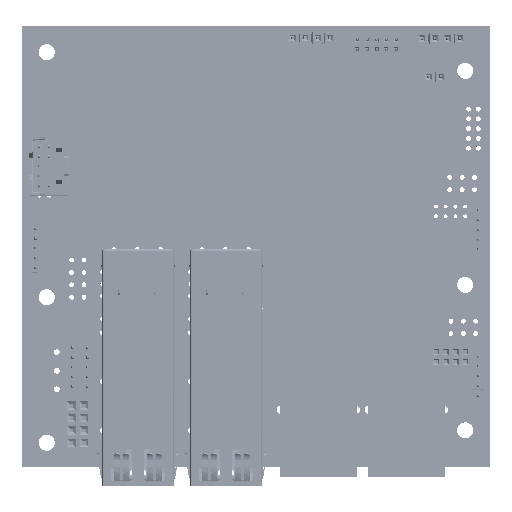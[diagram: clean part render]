
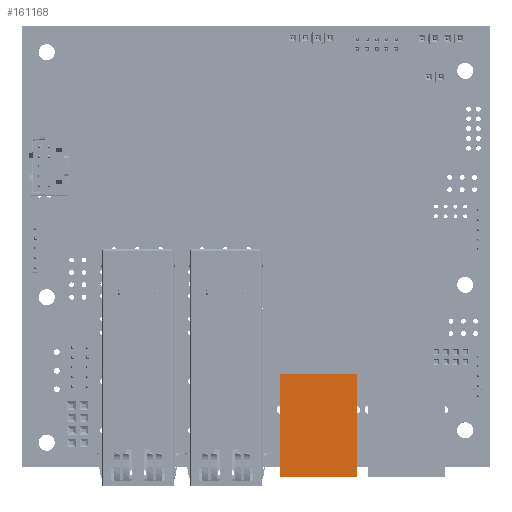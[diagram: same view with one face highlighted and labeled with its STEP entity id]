
A CAD part, top view. The second image highlights one B-rep face of the part: STEP entity #161168.
In plain terms, the highlighted planar face has unit normal (0, 0, 1) as drawn and (0, 1, 0) by its records, which use the part's own axes.
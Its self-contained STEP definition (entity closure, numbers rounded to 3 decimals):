
#157871 = PLANE('',#157872);
#157872 = AXIS2_PLACEMENT_3D('',#157873,#157874,#157875);
#157873 = CARTESIAN_POINT('',(7.95,13.6,-10.6));
#157874 = DIRECTION('',(-1.,0.,0.));
#157875 = DIRECTION('',(0.,0.,1.));
#158006 = PLANE('',#158007);
#158007 = AXIS2_PLACEMENT_3D('',#158008,#158009,#158010);
#158008 = CARTESIAN_POINT('',(-7.95,13.6,10.6));
#158009 = DIRECTION('',(0.,0.,-1.));
#158010 = DIRECTION('',(-1.,0.,0.));
#158034 = PLANE('',#158035);
#158035 = AXIS2_PLACEMENT_3D('',#158036,#158037,#158038);
#158036 = CARTESIAN_POINT('',(-7.95,13.6,-10.6));
#158037 = DIRECTION('',(1.,0.,0.));
#158038 = DIRECTION('',(0.,0.,-1.));
#158167 = PLANE('',#158168);
#158168 = AXIS2_PLACEMENT_3D('',#158169,#158170,#158171);
#158169 = CARTESIAN_POINT('',(-7.95,13.6,-10.6));
#158170 = DIRECTION('',(0.,0.,1.));
#158171 = DIRECTION('',(1.,0.,0.));
#158514 = VERTEX_POINT('',#158515);
#158515 = CARTESIAN_POINT('',(-7.95,13.6,-10.6));
#158536 = EDGE_CURVE('',#158537,#158514,#158539,.T.);
#158537 = VERTEX_POINT('',#158538);
#158538 = CARTESIAN_POINT('',(7.95,13.6,-10.6));
#158539 = SURFACE_CURVE('',#158540,(#158544,#158551),.PCURVE_S1.);
#158540 = LINE('',#158541,#158542);
#158541 = CARTESIAN_POINT('',(-7.95,13.6,-10.6));
#158542 = VECTOR('',#158543,1.);
#158543 = DIRECTION('',(-1.,0.,0.));
#158544 = PCURVE('',#158167,#158545);
#158545 = DEFINITIONAL_REPRESENTATION('',(#158546),#158550);
#158546 = LINE('',#158547,#158548);
#158547 = CARTESIAN_POINT('',(0.,0.));
#158548 = VECTOR('',#158549,1.);
#158549 = DIRECTION('',(-1.,0.));
#158550 = ( GEOMETRIC_REPRESENTATION_CONTEXT(2) 
PARAMETRIC_REPRESENTATION_CONTEXT() REPRESENTATION_CONTEXT('2D SPACE',''
  ) );
#158551 = PCURVE('',#158552,#158557);
#158552 = PLANE('',#158553);
#158553 = AXIS2_PLACEMENT_3D('',#158554,#158555,#158556);
#158554 = CARTESIAN_POINT('',(-7.95,13.6,10.6));
#158555 = DIRECTION('',(0.,1.,0.));
#158556 = DIRECTION('',(0.,0.,1.));
#158557 = DEFINITIONAL_REPRESENTATION('',(#158558),#158562);
#158558 = LINE('',#158559,#158560);
#158559 = CARTESIAN_POINT('',(-21.2,0.));
#158560 = VECTOR('',#158561,1.);
#158561 = DIRECTION('',(0.,-1.));
#158562 = ( GEOMETRIC_REPRESENTATION_CONTEXT(2) 
PARAMETRIC_REPRESENTATION_CONTEXT() REPRESENTATION_CONTEXT('2D SPACE',''
  ) );
#159581 = EDGE_CURVE('',#159582,#158537,#159584,.T.);
#159582 = VERTEX_POINT('',#159583);
#159583 = CARTESIAN_POINT('',(7.95,13.6,10.6));
#159584 = SURFACE_CURVE('',#159585,(#159589,#159596),.PCURVE_S1.);
#159585 = LINE('',#159586,#159587);
#159586 = CARTESIAN_POINT('',(7.95,13.6,-10.6));
#159587 = VECTOR('',#159588,1.);
#159588 = DIRECTION('',(0.,0.,-1.));
#159589 = PCURVE('',#157871,#159590);
#159590 = DEFINITIONAL_REPRESENTATION('',(#159591),#159595);
#159591 = LINE('',#159592,#159593);
#159592 = CARTESIAN_POINT('',(0.,0.));
#159593 = VECTOR('',#159594,1.);
#159594 = DIRECTION('',(-1.,0.));
#159595 = ( GEOMETRIC_REPRESENTATION_CONTEXT(2) 
PARAMETRIC_REPRESENTATION_CONTEXT() REPRESENTATION_CONTEXT('2D SPACE',''
  ) );
#159596 = PCURVE('',#158552,#159597);
#159597 = DEFINITIONAL_REPRESENTATION('',(#159598),#159602);
#159598 = LINE('',#159599,#159600);
#159599 = CARTESIAN_POINT('',(-21.2,15.9));
#159600 = VECTOR('',#159601,1.);
#159601 = DIRECTION('',(-1.,0.));
#159602 = ( GEOMETRIC_REPRESENTATION_CONTEXT(2) 
PARAMETRIC_REPRESENTATION_CONTEXT() REPRESENTATION_CONTEXT('2D SPACE',''
  ) );
#160220 = EDGE_CURVE('',#160221,#159582,#160223,.T.);
#160221 = VERTEX_POINT('',#160222);
#160222 = CARTESIAN_POINT('',(-7.95,13.6,10.6));
#160223 = SURFACE_CURVE('',#160224,(#160228,#160235),.PCURVE_S1.);
#160224 = LINE('',#160225,#160226);
#160225 = CARTESIAN_POINT('',(-7.95,13.6,10.6));
#160226 = VECTOR('',#160227,1.);
#160227 = DIRECTION('',(1.,0.,0.));
#160228 = PCURVE('',#158006,#160229);
#160229 = DEFINITIONAL_REPRESENTATION('',(#160230),#160234);
#160230 = LINE('',#160231,#160232);
#160231 = CARTESIAN_POINT('',(0.,0.));
#160232 = VECTOR('',#160233,1.);
#160233 = DIRECTION('',(-1.,0.));
#160234 = ( GEOMETRIC_REPRESENTATION_CONTEXT(2) 
PARAMETRIC_REPRESENTATION_CONTEXT() REPRESENTATION_CONTEXT('2D SPACE',''
  ) );
#160235 = PCURVE('',#158552,#160236);
#160236 = DEFINITIONAL_REPRESENTATION('',(#160237),#160241);
#160237 = LINE('',#160238,#160239);
#160238 = CARTESIAN_POINT('',(0.,0.));
#160239 = VECTOR('',#160240,1.);
#160240 = DIRECTION('',(0.,1.));
#160241 = ( GEOMETRIC_REPRESENTATION_CONTEXT(2) 
PARAMETRIC_REPRESENTATION_CONTEXT() REPRESENTATION_CONTEXT('2D SPACE',''
  ) );
#160587 = EDGE_CURVE('',#158514,#160221,#160588,.T.);
#160588 = SURFACE_CURVE('',#160589,(#160593,#160600),.PCURVE_S1.);
#160589 = LINE('',#160590,#160591);
#160590 = CARTESIAN_POINT('',(-7.95,13.6,-10.6));
#160591 = VECTOR('',#160592,1.);
#160592 = DIRECTION('',(0.,0.,1.));
#160593 = PCURVE('',#158034,#160594);
#160594 = DEFINITIONAL_REPRESENTATION('',(#160595),#160599);
#160595 = LINE('',#160596,#160597);
#160596 = CARTESIAN_POINT('',(0.,0.));
#160597 = VECTOR('',#160598,1.);
#160598 = DIRECTION('',(-1.,0.));
#160599 = ( GEOMETRIC_REPRESENTATION_CONTEXT(2) 
PARAMETRIC_REPRESENTATION_CONTEXT() REPRESENTATION_CONTEXT('2D SPACE',''
  ) );
#160600 = PCURVE('',#158552,#160601);
#160601 = DEFINITIONAL_REPRESENTATION('',(#160602),#160606);
#160602 = LINE('',#160603,#160604);
#160603 = CARTESIAN_POINT('',(-21.2,0.));
#160604 = VECTOR('',#160605,1.);
#160605 = DIRECTION('',(1.,0.));
#160606 = ( GEOMETRIC_REPRESENTATION_CONTEXT(2) 
PARAMETRIC_REPRESENTATION_CONTEXT() REPRESENTATION_CONTEXT('2D SPACE',''
  ) );
#161168 = ADVANCED_FACE('',(#161169),#158552,.T.);
#161169 = FACE_BOUND('',#161170,.T.);
#161170 = EDGE_LOOP('',(#161171,#161172,#161173,#161174));
#161171 = ORIENTED_EDGE('',*,*,#160587,.T.);
#161172 = ORIENTED_EDGE('',*,*,#160220,.T.);
#161173 = ORIENTED_EDGE('',*,*,#159581,.T.);
#161174 = ORIENTED_EDGE('',*,*,#158536,.T.);
